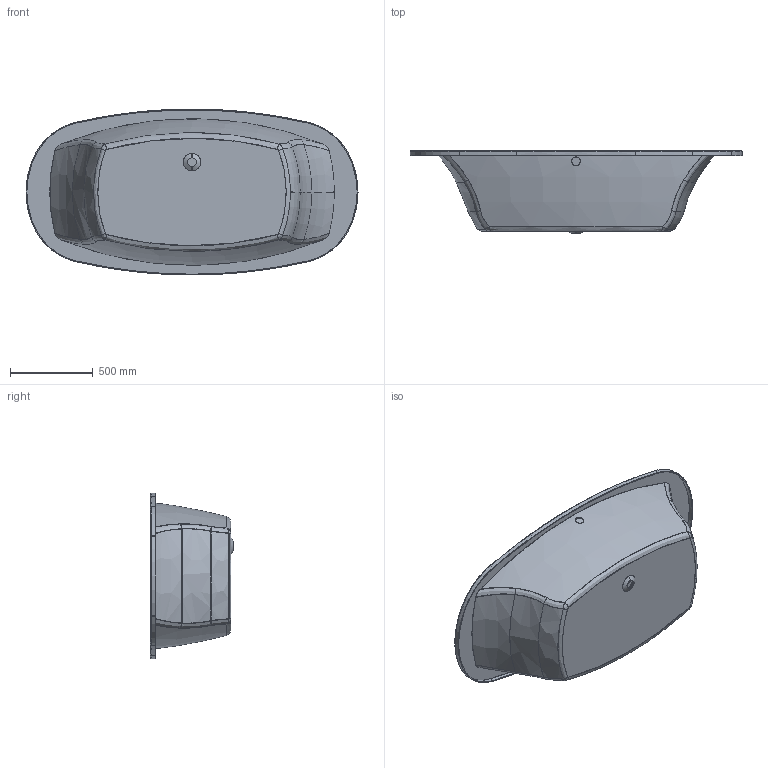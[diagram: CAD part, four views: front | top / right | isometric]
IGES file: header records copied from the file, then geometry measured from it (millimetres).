
Start section: SolidWorks IGES file using analytic representation for surfaces
Global section: file name: D:\Users\M.Szymanski\Desktop\Wanny\Largo\03. do przegrania\WO_LA 200x100.IGS; native system: SolidWorks 2011; preprocessor: SolidWorks 2011; author: M.Szymanski; date: 180608.143406; units: millimetre
Bounding box: 2000 x 500.21 x 1000 mm (x, y, z)
Surface area: 6450185.6 mm2 (no closed solid volume)
Topology: 0 solids, 0 shells, 138 faces, 1686 edges, 1684 vertices
Faces by surface type: bspline 96, revolution 42
